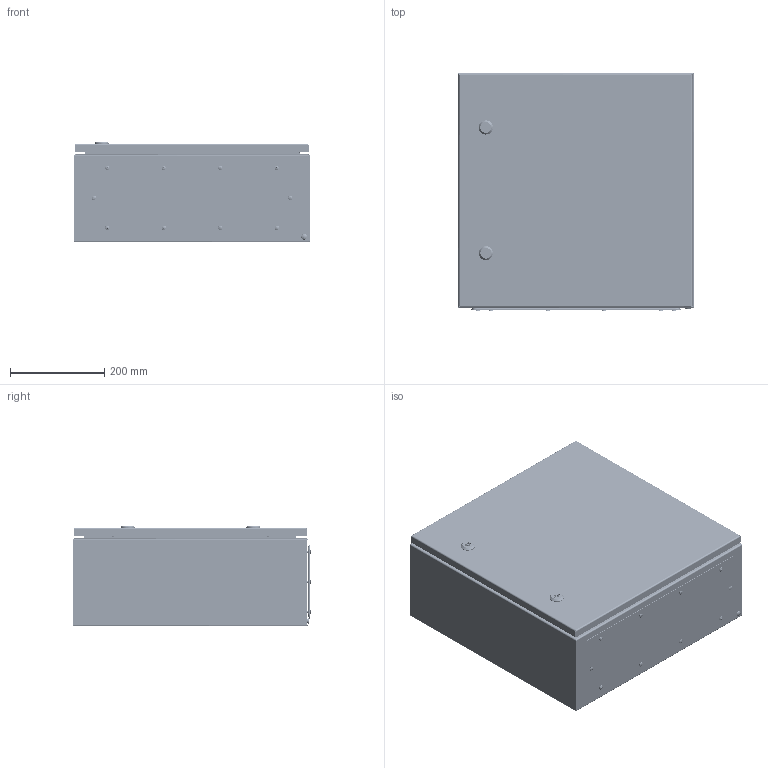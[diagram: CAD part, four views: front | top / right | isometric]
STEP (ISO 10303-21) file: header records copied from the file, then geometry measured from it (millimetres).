
FILE_DESCRIPTION (( 'STEP AP214' ), '1' );
FILE_NAME ('T-CCS 50.50.21.STEP', '2024-08-19T15:15:09', ( '' ), ( '' ), 'SwSTEP 2.0', 'SolidWorks 2019', '' );
FILE_SCHEMA (( 'AUTOMOTIVE_DESIGN' ));
Length unit declared in the file: millimetre
Products named in the file (1): T-CCS 50.50.21
Bounding box: 500 x 506.62 x 214.15 mm (x, y, z)
Volume: 2697811.3 mm3; surface area: 2840437.2 mm2
Topology: 81 solids, 81 shells, 3956 faces, 10108 edges, 6402 vertices
Faces by surface type: plane 2026, cylinder 1271, cone 336, bspline 160, torus 116, sphere 47
Entity records: 209620 total; most frequent: CARTESIAN_POINT 71546, ORIENTED_EDGE 20098, DIRECTION 18872, EDGE_CURVE 10049, AXIS2_PLACEMENT_3D 6491, VERTEX_POINT 6400, VECTOR 5890, LINE 5890
